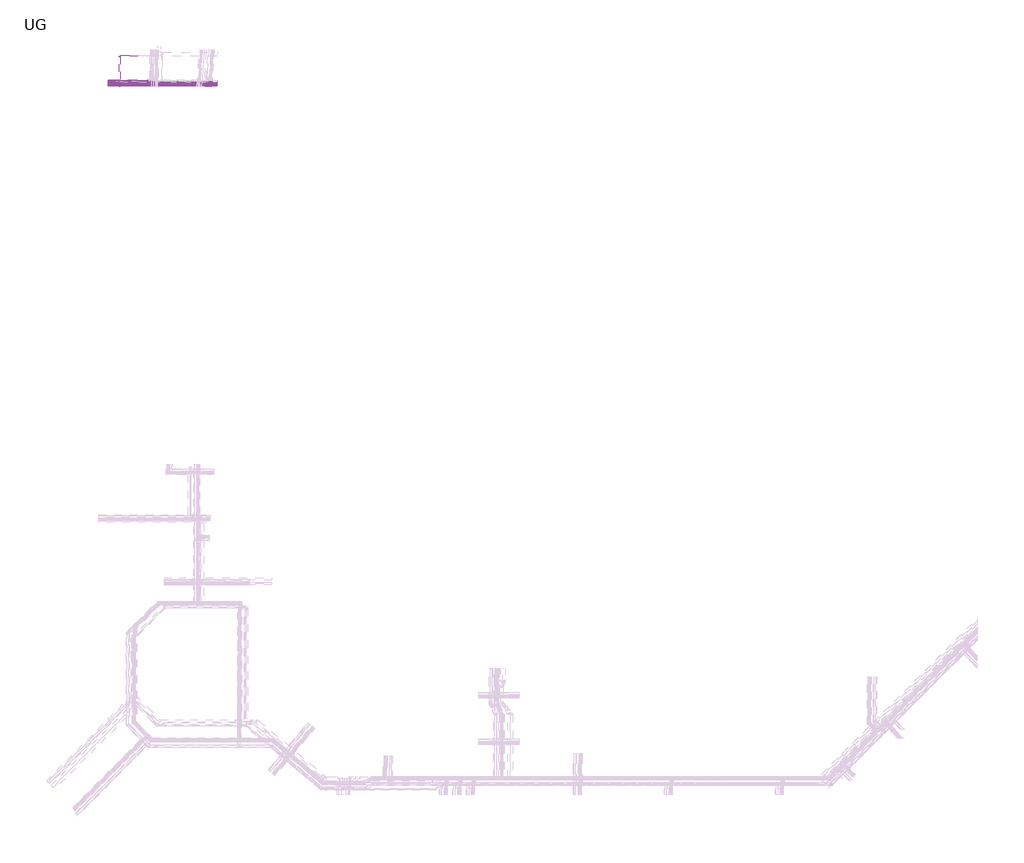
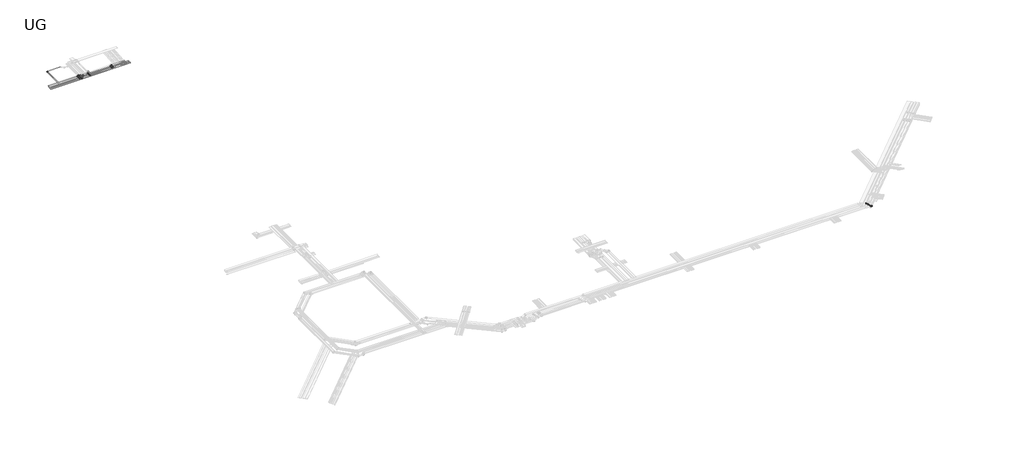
# One storey, part 12 of 14: 59 cable carrier segments, 47 cable carrier fittings.
"""IFC4 building model written with IfcOpenShell, lengths in millimetres."""

from ifc_helpers import new_model, si_unit, frame, origin, place, context, project, spatial, polyline, outline, extrude, transform, mapped, element, save
from components import cable_tray_horizontal_bend_a37de1d9, cable_tray_horizontal_bend_59db2054, cable_tray_horizontal_bend_082565e2, cable_tray_horizontal_bend_03af3673, cable_tray_horizontal_bend_b305b8b5, cable_tray_horizontal_bend_84a11516, cable_tray_reducer_c4c58872, cable_tray_reducer_97d4e856, cable_tray_reducer_20023c96, cable_tray_vertical_inside_bend_f6baaffd, cable_tray_vertical_inside_bend_2483429f, cable_tray_vertical_inside_bend_7e2063ad, cable_tray_vertical_inside_bend_1b7707b7, cable_tray_vertical_outside_bend_b526f006, cable_tray_vertical_outside_bend_0dbe7b70, cable_tray_vertical_outside_bend_43f46f6e, cable_tray_vertical_outside_bend_fceaed45, cable_tray_vertical_outside_bend_59e16c32, cable_tray_vertical_outside_bend_fb3c5a79

model = new_model("IFC4")

# Units and contexts
model_context = context("Model", 3, world=origin())
ifc_project = project(units=[si_unit("LENGTHUNIT", "METRE", prefix="MILLI")], contexts=[model_context])

# Site, building, storey
site = spatial("IfcSite", under=ifc_project)
building = spatial("IfcBuilding", under=site)
storey = spatial("IfcBuildingStorey", under=building, Name="UG", Elevation=7925.0)

# Cable carrier fittings
placement = place(None, origin())
cable_tray_horizontal_bend_shape = cable_tray_horizontal_bend_a37de1d9(model_context)
element("IfcCableCarrierFitting", 1, ObjectType="Cable Tray Horizontal Bend : ELEC_ELV_TKG_N2402", at=placement, inside=storey, context=model_context, shape_type="MappedRepresentation", body=[
    mapped(cable_tray_horizontal_bend_shape, transform((91900.0, 192741.4213562, 12700.0), x_axis=(0.0, -1.0, 0.0), y_axis=(0.0, 0.0, 1.0), z_axis=(-1.0, 0.0, 0.0))),
])
element("IfcCableCarrierFitting", 2, ObjectType="Cable Tray Horizontal Bend : ELEC_ELV_TKG_N2402", at=placement, inside=storey, context=model_context, shape_type="MappedRepresentation", body=[
    mapped(cable_tray_horizontal_bend_shape, transform((254652.9856389, 24300.0000036, 12804.9999995), x_axis=(1.0, 0.0, 0.0), y_axis=(0.0, 1.0, 0.0), z_axis=(0.0, 0.0, 1.0))),
])
element("IfcCableCarrierFitting", 3, ObjectType="Cable Tray Horizontal Bend : ELEC_ELV_TKG_N2402", at=placement, inside=storey, context=model_context, shape_type="MappedRepresentation", body=[
    mapped(cable_tray_horizontal_bend_shape, transform((254528.7215701, 24600.0000036, 12804.9999995), x_axis=(1.0, 0.0, 0.0), y_axis=(0.0, 1.0, 0.0), z_axis=(0.0, 0.0, 1.0))),
])
cable_tray_horizontal_bend_2_shape = cable_tray_horizontal_bend_59db2054(model_context)
element("IfcCableCarrierFitting", 4, ObjectType="Cable Tray Horizontal Bend : ELEC_ELV_TKG_N2402", at=placement, inside=storey, context=model_context, shape_type="MappedRepresentation", body=[
    mapped(cable_tray_horizontal_bend_2_shape, transform((255031.2982989, 22875.1903846, 12850.3002338), x_axis=(0.9999999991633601, 0.0, -4.090574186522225e-05), y_axis=(1.6732797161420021e-09, 0.9999999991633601, 4.090574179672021e-05), z_axis=(4.0905741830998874e-05, -4.0905741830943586e-05, 0.9999999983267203))),
])
cable_tray_horizontal_bend_3_shape = cable_tray_horizontal_bend_082565e2(model_context)
element("IfcCableCarrierFitting", 5, ObjectType="Cable Tray Horizontal Bend : ELEC_MAIN_CT_N2402", at=placement, inside=storey, context=model_context, shape_type="MappedRepresentation", body=[
    mapped(cable_tray_horizontal_bend_3_shape, transform((83960.768275, 198050.0, 13500.0), x_axis=(-1.0, 0.0, 0.0), y_axis=(0.0, -1.0, 0.0), z_axis=(0.0, 0.0, 1.0))),
])
cable_tray_horizontal_bend_4_shape = cable_tray_horizontal_bend_03af3673(model_context)
element("IfcCableCarrierFitting", 6, ObjectType="Cable Tray Horizontal Bend : ELEC_ELV_TKG_N2402", at=placement, inside=storey, context=model_context, shape_type="MappedRepresentation", body=[
    mapped(cable_tray_horizontal_bend_4_shape, transform((254772.2244377, 23500.0, 12799.9913655), x_axis=(0.9999999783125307, 0.0, -0.0002082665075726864), y_axis=(4.342321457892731e-08, 0.9999999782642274, 0.00020849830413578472), z_axis=(0.00020826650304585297, -0.00020849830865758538, 0.9999999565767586))),
])
cable_tray_horizontal_bend_5_shape = cable_tray_horizontal_bend_b305b8b5(model_context)
element("IfcCableCarrierFitting", 7, ObjectType="Cable Tray Horizontal Bend : ELEC_ELV_TKG_N2402", at=placement, inside=storey, context=model_context, shape_type="MappedRepresentation", body=[
    mapped(cable_tray_horizontal_bend_5_shape, transform((254896.4885064, 23200.0, 12824.9999922), x_axis=(0.999999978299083, 0.0, -0.0002083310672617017), y_axis=(4.340183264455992e-08, 0.9999999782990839, 0.00020833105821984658), z_axis=(0.00020833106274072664, -0.00020833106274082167, 0.9999999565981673))),
])
cable_tray_horizontal_bend_6_shape = cable_tray_horizontal_bend_84a11516(model_context)
element("IfcCableCarrierFitting", 8, ObjectType="Cable Tray Horizontal Bend : ELEC_ELV_CT_N2402", at=placement, inside=storey, context=model_context, shape_type="MappedRepresentation", body=[
    mapped(cable_tray_horizontal_bend_6_shape, transform((254725.474976, 24125.0000036, 12779.9946567), x_axis=(0.9999999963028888, 0.0, -8.598966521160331e-05), y_axis=(7.394222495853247e-09, 0.9999999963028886, 8.598966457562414e-05), z_axis=(8.598966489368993e-05, -8.598966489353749e-05, 0.9999999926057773))),
])
cable_tray_reducer_shape = cable_tray_reducer_c4c58872(model_context)
element("IfcCableCarrierFitting", 9, ObjectType="Cable Tray Reducer : ELEC_ELV_TKG_N2402", at=placement, inside=storey, context=model_context, shape_type="MappedRepresentation", body=[
    mapped(cable_tray_reducer_shape, transform((255075.2322817, 22919.1243674, 12850.3002338), x_axis=(0.7071067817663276, 0.7071067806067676, 0.0), y_axis=(-0.7071067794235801, 0.7071067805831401, 5.784945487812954e-05), z_axis=(4.090574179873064e-05, -4.090574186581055e-05, 0.9999999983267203))),
])
cable_tray_reducer_2_shape = cable_tray_reducer_97d4e856(model_context)
element("IfcCableCarrierFitting", 10, ObjectType="Cable Tray Reducer : ELEC_ELV_TKG_N2402", at=placement, inside=storey, context=model_context, shape_type="MappedRepresentation", body=[
    mapped(cable_tray_reducer_2_shape, transform((254682.2749607, 24329.2893254, 12804.9999995), x_axis=(0.7071067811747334, 0.7071067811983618, 0.0), y_axis=(-0.7071067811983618, 0.7071067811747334, 0.0), z_axis=(0.0, 0.0, 1.0))),
])
cable_tray_reducer_3_shape = cable_tray_reducer_20023c96(model_context)
element("IfcCableCarrierFitting", 11, ObjectType="Cable Tray Reducer : ELEC_ELV_TKG_N2402", at=placement, inside=storey, context=model_context, shape_type="MappedRepresentation", body=[
    mapped(cable_tray_reducer_3_shape, transform((254500.1681795, 24818.9339863, 12829.9490828), x_axis=(0.7071067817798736, 0.70710678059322, 4.837075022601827e-08), y_axis=(-0.7071067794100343, 0.7071067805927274, 5.789782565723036e-05), z_axis=(4.09057418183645e-05, -4.097414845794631e-05, 0.9999999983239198))),
])
cable_tray_vertical_inside_bend_shape = cable_tray_vertical_inside_bend_f6baaffd(model_context)
element("IfcCableCarrierFitting", 12, ObjectType="Cable Tray Vertical Inside Bend : ELEC_SUB_CT_N2402", at=placement, inside=storey, context=model_context, shape_type="MappedRepresentation", body=[
    mapped(cable_tray_vertical_inside_bend_shape, transform((90650.0, 192150.0, 13050.0), x_axis=(1.0, 0.0, 0.0), y_axis=(0.0, 0.0, 1.0), z_axis=(0.0, -1.0, 0.0))),
])
element("IfcCableCarrierFitting", 13, ObjectType="Cable Tray Vertical Inside Bend : ELEC_SUB_CT_N2402", at=placement, inside=storey, context=model_context, shape_type="MappedRepresentation", body=[
    mapped(cable_tray_vertical_inside_bend_shape, transform((90650.0, 191700.0, 13050.0), x_axis=(-0.7071067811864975, 0.0, -0.7071067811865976), y_axis=(-0.7071067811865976, 0.0, 0.7071067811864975), z_axis=(0.0, 1.0, 0.0))),
])
element("IfcCableCarrierFitting", 14, ObjectType="Cable Tray Vertical Inside Bend : ELEC_SUB_CT_N2402", at=placement, inside=storey, context=model_context, shape_type="MappedRepresentation", body=[
    mapped(cable_tray_vertical_inside_bend_shape, transform((94050.0000002, 191700.0, 13050.0), x_axis=(0.7071067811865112, 0.0, -0.707106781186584), y_axis=(0.707106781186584, 0.0, 0.7071067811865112), z_axis=(0.0, -1.0, 0.0))),
])
element("IfcCableCarrierFitting", 15, ObjectType="Cable Tray Vertical Inside Bend : ELEC_SUB_CT_N2402", at=placement, inside=storey, context=model_context, shape_type="MappedRepresentation", body=[
    mapped(cable_tray_vertical_inside_bend_shape, transform((101301.5421628, 191700.0, 13050.0), x_axis=(-0.707106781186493, 0.0, -0.7071067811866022), y_axis=(-0.7071067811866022, 0.0, 0.707106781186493), z_axis=(0.0, 1.0, 0.0))),
])
cable_tray_vertical_inside_bend_2_shape = cable_tray_vertical_inside_bend_2483429f(model_context)
element("IfcCableCarrierFitting", 16, ObjectType="Cable Tray Vertical Inside Bend : ELEC_SUB_CT_N2402", at=placement, inside=storey, context=model_context, shape_type="MappedRepresentation", body=[
    mapped(cable_tray_vertical_inside_bend_2_shape, transform((90650.0, 191350.0, 13050.0), x_axis=(1.0, 0.0, 0.0), y_axis=(0.0, 0.0, 1.0), z_axis=(0.0, -1.0, 0.0))),
])
element("IfcCableCarrierFitting", 17, ObjectType="Cable Tray Vertical Inside Bend : ELEC_SUB_CT_N2402", at=placement, inside=storey, context=model_context, shape_type="MappedRepresentation", body=[
    mapped(cable_tray_vertical_inside_bend_2_shape, transform((90650.0, 191100.0, 13050.0), x_axis=(-0.7071067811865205, 0.0, -0.7071067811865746), y_axis=(-0.7071067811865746, 0.0, 0.7071067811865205), z_axis=(0.0, 1.0, 0.0))),
])
element("IfcCableCarrierFitting", 18, ObjectType="Cable Tray Vertical Inside Bend : ELEC_SUB_CT_N2402", at=placement, inside=storey, context=model_context, shape_type="MappedRepresentation", body=[
    mapped(cable_tray_vertical_inside_bend_2_shape, transform((90650.0, 190850.0, 13050.0), x_axis=(-0.7071067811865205, 0.0, -0.7071067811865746), y_axis=(-0.7071067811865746, 0.0, 0.7071067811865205), z_axis=(0.0, 1.0, 0.0))),
])
element("IfcCableCarrierFitting", 19, ObjectType="Cable Tray Vertical Inside Bend : ELEC_SUB_CT_N2402", at=placement, inside=storey, context=model_context, shape_type="MappedRepresentation", body=[
    mapped(cable_tray_vertical_inside_bend_2_shape, transform((94050.0000002, 191350.0, 13050.0), x_axis=(0.7071067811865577, 0.0, -0.7071067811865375), y_axis=(0.7071067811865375, 0.0, 0.7071067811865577), z_axis=(0.0, -1.0, 0.0))),
])
element("IfcCableCarrierFitting", 20, ObjectType="Cable Tray Vertical Inside Bend : ELEC_SUB_CT_N2402", at=placement, inside=storey, context=model_context, shape_type="MappedRepresentation", body=[
    mapped(cable_tray_vertical_inside_bend_2_shape, transform((101301.5421628, 191350.0, 13050.0), x_axis=(-0.7071067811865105, 0.0, -0.7071067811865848), y_axis=(-0.7071067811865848, 0.0, 0.7071067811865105), z_axis=(0.0, 1.0, 0.0))),
])
element("IfcCableCarrierFitting", 21, ObjectType="Cable Tray Vertical Inside Bend : ELEC_SUB_CT_N2402", at=placement, inside=storey, context=model_context, shape_type="MappedRepresentation", body=[
    mapped(cable_tray_vertical_inside_bend_2_shape, transform((94050.0000002, 191100.0, 13050.0), x_axis=(0.7071067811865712, 0.0, -0.7071067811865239), y_axis=(0.7071067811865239, 0.0, 0.7071067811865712), z_axis=(0.0, -1.0, 0.0))),
])
element("IfcCableCarrierFitting", 22, ObjectType="Cable Tray Vertical Inside Bend : ELEC_SUB_CT_N2402", at=placement, inside=storey, context=model_context, shape_type="MappedRepresentation", body=[
    mapped(cable_tray_vertical_inside_bend_2_shape, transform((101301.5421628, 191100.0, 13050.0), x_axis=(-0.7071067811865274, 0.0, -0.7071067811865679), y_axis=(-0.7071067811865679, 0.0, 0.7071067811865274), z_axis=(0.0, 1.0, 0.0))),
])
element("IfcCableCarrierFitting", 23, ObjectType="Cable Tray Vertical Inside Bend : ELEC_SUB_CT_N2402", at=placement, inside=storey, context=model_context, shape_type="MappedRepresentation", body=[
    mapped(cable_tray_vertical_inside_bend_2_shape, transform((94050.0000002, 190850.0, 13050.0), x_axis=(0.7071067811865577, 0.0, -0.7071067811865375), y_axis=(0.7071067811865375, 0.0, 0.7071067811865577), z_axis=(0.0, -1.0, 0.0))),
])
element("IfcCableCarrierFitting", 24, ObjectType="Cable Tray Vertical Inside Bend : ELEC_SUB_CT_N2402", at=placement, inside=storey, context=model_context, shape_type="MappedRepresentation", body=[
    mapped(cable_tray_vertical_inside_bend_2_shape, transform((101301.5421628, 190850.0, 13050.0), x_axis=(-0.7071067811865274, 0.0, -0.7071067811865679), y_axis=(-0.7071067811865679, 0.0, 0.7071067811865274), z_axis=(0.0, 1.0, 0.0))),
])
cable_tray_vertical_inside_bend_3_shape = cable_tray_vertical_inside_bend_7e2063ad(model_context)
element("IfcCableCarrierFitting", 25, ObjectType="Cable Tray Vertical Inside Bend : ELEC_ELV_TKG_N2402", at=placement, inside=storey, context=model_context, shape_type="MappedRepresentation", body=[
    mapped(cable_tray_vertical_inside_bend_3_shape, transform((254456.2341966, 24775.0000036, 12829.9490798), x_axis=(0.9999999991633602, 0.0, -4.0905741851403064e-05), y_axis=(1.676077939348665e-09, 0.9999999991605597, 4.0974148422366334e-05), z_axis=(4.090574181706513e-05, -4.097414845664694e-05, 0.9999999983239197))),
])
element("IfcCableCarrierFitting", 26, ObjectType="Cable Tray Vertical Inside Bend : ELEC_ELV_TKG_N2402", at=placement, inside=storey, context=model_context, shape_type="MappedRepresentation", body=[
    mapped(cable_tray_vertical_inside_bend_3_shape, transform((254373.3914908, 24975.0000036, 12829.997401), x_axis=(0.9999999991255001, 0.0, -4.182104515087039e-05), y_axis=(1.7519292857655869e-09, 0.9999999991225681, 4.1891092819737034e-05), z_axis=(4.182104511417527e-05, -4.189109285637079e-05, 0.9999999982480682))),
])
cable_tray_vertical_inside_bend_4_shape = cable_tray_vertical_inside_bend_1b7707b7(model_context)
element("IfcCableCarrierFitting", 27, ObjectType="Cable Tray Vertical Inside Bend : ELEC_ELV_TKG_N2402", at=placement, inside=storey, context=model_context, shape_type="MappedRepresentation", body=[
    mapped(cable_tray_vertical_inside_bend_4_shape, transform((254590.8536323, 24450.0000036, 12804.9964127), x_axis=(0.9999999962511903, 0.0, -8.658879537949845e-05), y_axis=(7.50166772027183e-09, 0.999999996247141, 8.663554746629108e-05), z_axis=(8.65887950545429e-05, -8.663554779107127e-05, 0.9999999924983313))),
])
cable_tray_vertical_outside_bend_shape = cable_tray_vertical_outside_bend_b526f006(model_context)
element("IfcCableCarrierFitting", 28, ObjectType="Cable Tray Vertical Outside Bend : ELEC_ELV_TKG_N2402", at=placement, inside=storey, context=model_context, shape_type="MappedRepresentation", body=[
    mapped(cable_tray_vertical_outside_bend_shape, transform((91725.0, 191325.0, 13025.0), x_axis=(0.0, -1.0, 0.0), y_axis=(0.0, 0.0, -1.0), z_axis=(1.0, 0.0, 0.0))),
])
element("IfcCableCarrierFitting", 29, ObjectType="Cable Tray Vertical Outside Bend : ELEC_ELV_TKG_N2402", at=placement, inside=storey, context=model_context, shape_type="MappedRepresentation", body=[
    mapped(cable_tray_vertical_outside_bend_shape, transform((91225.0, 190825.0, 13025.0), x_axis=(0.0, -1.0, 0.0), y_axis=(0.0, 0.0, -1.0), z_axis=(1.0, 0.0, 0.0))),
])
cable_tray_vertical_outside_bend_2_shape = cable_tray_vertical_outside_bend_0dbe7b70(model_context)
element("IfcCableCarrierFitting", 30, ObjectType="Cable Tray Vertical Outside Bend : ELEC_ELV_TKG_N2402", at=placement, inside=storey, context=model_context, shape_type="MappedRepresentation", body=[
    mapped(cable_tray_vertical_outside_bend_2_shape, transform((91900.0, 191499.3407089, 13000.0), x_axis=(0.0, -1.0, 0.0), y_axis=(0.0, 0.0, -1.0), z_axis=(1.0, 0.0, 0.0))),
])
element("IfcCableCarrierFitting", 31, ObjectType="Cable Tray Vertical Outside Bend : ELEC_ELV_TKG_N2402", at=placement, inside=storey, context=model_context, shape_type="MappedRepresentation", body=[
    mapped(cable_tray_vertical_outside_bend_2_shape, transform((91550.0, 191150.0, 13000.0), x_axis=(0.0, -1.0, 0.0), y_axis=(0.0, 0.0, -1.0), z_axis=(1.0, 0.0, 0.0))),
])
element("IfcCableCarrierFitting", 32, ObjectType="Cable Tray Vertical Outside Bend : ELEC_ELV_TKG_N2402", at=placement, inside=storey, context=model_context, shape_type="MappedRepresentation", body=[
    mapped(cable_tray_vertical_outside_bend_2_shape, transform((91400.0, 191000.0, 13000.0), x_axis=(0.0, -1.0, 0.0), y_axis=(0.0, 0.0, -1.0), z_axis=(1.0, 0.0, 0.0))),
])
cable_tray_vertical_outside_bend_3_shape = cable_tray_vertical_outside_bend_43f46f6e(model_context)
element("IfcCableCarrierFitting", 33, ObjectType="Cable Tray Vertical Outside Bend : ELEC_ELV_TKG_N2402", at=placement, inside=storey, context=model_context, shape_type="MappedRepresentation", body=[
    mapped(cable_tray_vertical_outside_bend_3_shape, transform((92200.0, 191800.0, 13025.0), x_axis=(0.0, -1.0, 0.0), y_axis=(0.0, 0.0, -1.0), z_axis=(1.0, 0.0, 0.0))),
])
cable_tray_vertical_outside_bend_4_shape = cable_tray_vertical_outside_bend_fceaed45(model_context)
element("IfcCableCarrierFitting", 34, ObjectType="Cable Tray Vertical Outside Bend : ELEC_ELV_TKG_N2402", at=placement, inside=storey, context=model_context, shape_type="MappedRepresentation", body=[
    mapped(cable_tray_vertical_outside_bend_4_shape, transform((91900.0, 192441.4213562, 13000.0), x_axis=(0.0, -0.7071067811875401, 0.7071067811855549), y_axis=(0.0, -0.7071067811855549, -0.7071067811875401), z_axis=(1.0, 0.0, 0.0))),
])
cable_tray_vertical_outside_bend_5_shape = cable_tray_vertical_outside_bend_59e16c32(model_context)
element("IfcCableCarrierFitting", 35, ObjectType="Cable Tray Vertical Outside Bend : ELEC_SUB_CT_N2402", at=placement, inside=storey, context=model_context, shape_type="MappedRepresentation", body=[
    mapped(cable_tray_vertical_outside_bend_5_shape, transform((90950.0, 192150.0, 13350.0), x_axis=(0.7071067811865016, 0.0, 0.7071067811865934), y_axis=(0.7071067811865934, 0.0, -0.7071067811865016), z_axis=(0.0, 1.0, 0.0))),
])
element("IfcCableCarrierFitting", 36, ObjectType="Cable Tray Vertical Outside Bend : ELEC_SUB_CT_N2402", at=placement, inside=storey, context=model_context, shape_type="MappedRepresentation", body=[
    mapped(cable_tray_vertical_outside_bend_5_shape, transform((90950.0, 191700.0, 13350.0), x_axis=(0.7071067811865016, 0.0, 0.7071067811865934), y_axis=(0.7071067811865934, 0.0, -0.7071067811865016), z_axis=(0.0, 1.0, 0.0))),
])
element("IfcCableCarrierFitting", 37, ObjectType="Cable Tray Vertical Outside Bend : ELEC_SUB_CT_N2402", at=placement, inside=storey, context=model_context, shape_type="MappedRepresentation", body=[
    mapped(cable_tray_vertical_outside_bend_5_shape, transform((93750.0000002, 191700.0, 13350.0), x_axis=(1.0, 0.0, 0.0), y_axis=(0.0, 0.0, -1.0), z_axis=(0.0, 1.0, 0.0))),
])
element("IfcCableCarrierFitting", 38, ObjectType="Cable Tray Vertical Outside Bend : ELEC_SUB_CT_N2402", at=placement, inside=storey, context=model_context, shape_type="MappedRepresentation", body=[
    mapped(cable_tray_vertical_outside_bend_5_shape, transform((101601.5421628, 191700.0, 13350.0), x_axis=(0.7071067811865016, 0.0, 0.7071067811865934), y_axis=(0.7071067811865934, 0.0, -0.7071067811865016), z_axis=(0.0, 1.0, 0.0))),
])
cable_tray_vertical_outside_bend_6_shape = cable_tray_vertical_outside_bend_fb3c5a79(model_context)
element("IfcCableCarrierFitting", 39, ObjectType="Cable Tray Vertical Outside Bend : ELEC_SUB_CT_N2402", at=placement, inside=storey, context=model_context, shape_type="MappedRepresentation", body=[
    mapped(cable_tray_vertical_outside_bend_6_shape, transform((90950.0, 191350.0, 13350.0), x_axis=(0.7071067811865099, 0.0, 0.7071067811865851), y_axis=(0.7071067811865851, 0.0, -0.7071067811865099), z_axis=(0.0, 1.0, 0.0))),
])
element("IfcCableCarrierFitting", 40, ObjectType="Cable Tray Vertical Outside Bend : ELEC_SUB_CT_N2402", at=placement, inside=storey, context=model_context, shape_type="MappedRepresentation", body=[
    mapped(cable_tray_vertical_outside_bend_6_shape, transform((93750.0000002, 191350.0, 13350.0), x_axis=(1.0, 0.0, 0.0), y_axis=(0.0, 0.0, -1.0), z_axis=(0.0, 1.0, 0.0))),
])
element("IfcCableCarrierFitting", 41, ObjectType="Cable Tray Vertical Outside Bend : ELEC_SUB_CT_N2402", at=placement, inside=storey, context=model_context, shape_type="MappedRepresentation", body=[
    mapped(cable_tray_vertical_outside_bend_6_shape, transform((90950.0, 191100.0, 13350.0), x_axis=(0.7071067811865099, 0.0, 0.7071067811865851), y_axis=(0.7071067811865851, 0.0, -0.7071067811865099), z_axis=(0.0, 1.0, 0.0))),
])
element("IfcCableCarrierFitting", 42, ObjectType="Cable Tray Vertical Outside Bend : ELEC_SUB_CT_N2402", at=placement, inside=storey, context=model_context, shape_type="MappedRepresentation", body=[
    mapped(cable_tray_vertical_outside_bend_6_shape, transform((93750.0000002, 191100.0, 13350.0), x_axis=(1.0, 0.0, 0.0), y_axis=(0.0, 0.0, -1.0), z_axis=(0.0, 1.0, 0.0))),
])
element("IfcCableCarrierFitting", 43, ObjectType="Cable Tray Vertical Outside Bend : ELEC_SUB_CT_N2402", at=placement, inside=storey, context=model_context, shape_type="MappedRepresentation", body=[
    mapped(cable_tray_vertical_outside_bend_6_shape, transform((90950.0, 190850.0, 13350.0), x_axis=(0.7071067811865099, 0.0, 0.7071067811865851), y_axis=(0.7071067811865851, 0.0, -0.7071067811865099), z_axis=(0.0, 1.0, 0.0))),
])
element("IfcCableCarrierFitting", 44, ObjectType="Cable Tray Vertical Outside Bend : ELEC_SUB_CT_N2402", at=placement, inside=storey, context=model_context, shape_type="MappedRepresentation", body=[
    mapped(cable_tray_vertical_outside_bend_6_shape, transform((93750.0000002, 190850.0, 13350.0), x_axis=(1.0, 0.0, 0.0), y_axis=(0.0, 0.0, -1.0), z_axis=(0.0, 1.0, 0.0))),
])
element("IfcCableCarrierFitting", 45, ObjectType="Cable Tray Vertical Outside Bend : ELEC_SUB_CT_N2402", at=placement, inside=storey, context=model_context, shape_type="MappedRepresentation", body=[
    mapped(cable_tray_vertical_outside_bend_6_shape, transform((101601.5421628, 191350.0, 13350.0), x_axis=(0.7071067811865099, 0.0, 0.7071067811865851), y_axis=(0.7071067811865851, 0.0, -0.7071067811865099), z_axis=(0.0, 1.0, 0.0))),
])
element("IfcCableCarrierFitting", 46, ObjectType="Cable Tray Vertical Outside Bend : ELEC_SUB_CT_N2402", at=placement, inside=storey, context=model_context, shape_type="MappedRepresentation", body=[
    mapped(cable_tray_vertical_outside_bend_6_shape, transform((101601.5421628, 191100.0, 13350.0), x_axis=(0.7071067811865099, 0.0, 0.7071067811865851), y_axis=(0.7071067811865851, 0.0, -0.7071067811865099), z_axis=(0.0, 1.0, 0.0))),
])
element("IfcCableCarrierFitting", 47, ObjectType="Cable Tray Vertical Outside Bend : ELEC_SUB_CT_N2402", at=placement, inside=storey, context=model_context, shape_type="MappedRepresentation", body=[
    mapped(cable_tray_vertical_outside_bend_6_shape, transform((101601.5421628, 190850.0, 13350.0), x_axis=(0.7071067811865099, 0.0, 0.7071067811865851), y_axis=(0.7071067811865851, 0.0, -0.7071067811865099), z_axis=(0.0, 1.0, 0.0))),
])

# Cable carrier segments
element("IfcCableCarrierSegment", 48, ObjectType="ELEC_ELV_TKG_N2402", at=placement, inside=storey, context=model_context, shape_type="SweptSolid", body=[
    extrude(outline(polyline([(81140.0010949, 191600.0), (81140.0010949, 192000.0), (107313.684735, 192000.0), (107313.684735, 191600.0), (81140.0010949, 191600.0)])), frame((0.0, 0.0, 12650.0), z_axis=(0.0, 0.0, 1.0), x_axis=(1.0, 0.0, 0.0)), (0.0, 0.0, 1.0), 150.0),
])
element("IfcCableCarrierSegment", 49, ObjectType="ELEC_ELV_TKG_N2402", at=placement, inside=storey, context=model_context, shape_type="SweptSolid", body=[
    extrude(outline(polyline([(81140.0010949, 191449.3407089), (81140.0010949, 191549.3407089), (107313.684735, 191549.3407089), (107313.684735, 191449.3407089), (81140.0010949, 191449.3407089)])), frame((0.0, 0.0, 12650.0), z_axis=(0.0, 0.0, 1.0), x_axis=(1.0, 0.0, 0.0)), (0.0, 0.0, 1.0), 100.0),
])
element("IfcCableCarrierSegment", 50, ObjectType="ELEC_ELV_TKG_N2402", at=placement, inside=storey, context=model_context, shape_type="SweptSolid", body=[
    extrude(outline(polyline([(81140.0010949, 191250.0), (81140.0010949, 191400.0), (107313.684735, 191400.0), (107313.684735, 191250.0), (81140.0010949, 191250.0)])), frame((0.0, 0.0, 12650.0), z_axis=(0.0, 0.0, 1.0), x_axis=(1.0, 0.0, 0.0)), (0.0, 0.0, 1.0), 150.0),
])
element("IfcCableCarrierSegment", 51, ObjectType="ELEC_ELV_TKG_N2402", at=placement, inside=storey, context=model_context, shape_type="SweptSolid", body=[
    extrude(outline(polyline([(81140.0010949, 191100.0), (81140.0010949, 191200.0), (107313.684735, 191200.0), (107313.684735, 191100.0), (81140.0010949, 191100.0)])), frame((0.0, 0.0, 12650.0), z_axis=(0.0, 0.0, 1.0), x_axis=(1.0, 0.0, 0.0)), (0.0, 0.0, 1.0), 100.0),
])
element("IfcCableCarrierSegment", 52, ObjectType="ELEC_ELV_TKG_N2402", at=placement, inside=storey, context=model_context, shape_type="SweptSolid", body=[
    extrude(outline(polyline([(81140.0010949, 190950.0), (81140.0010949, 191050.0), (107313.684735, 191050.0), (107313.684735, 190950.0), (81140.0010949, 190950.0)])), frame((0.0, 0.0, 12650.0), z_axis=(0.0, 0.0, 1.0), x_axis=(1.0, 0.0, 0.0)), (0.0, 0.0, 1.0), 100.0),
])
element("IfcCableCarrierSegment", 53, ObjectType="ELEC_ELV_TKG_N2402", at=placement, inside=storey, context=model_context, shape_type="SweptSolid", body=[
    extrude(outline(polyline([(81140.0010949, 190750.0), (81140.0010949, 190900.0), (107313.684735, 190900.0), (107313.684735, 190750.0), (81140.0010949, 190750.0)])), frame((0.0, 0.0, 12650.0), z_axis=(0.0, 0.0, 1.0), x_axis=(1.0, 0.0, 0.0)), (0.0, 0.0, 1.0), 150.0),
])
element("IfcCableCarrierSegment", 54, ObjectType="ELEC_ELV_TKG_N2402", at=placement, inside=storey, context=model_context, shape_type="SweptSolid", body=[
    extrude(outline(polyline([(92400.0, 192200.0), (92400.0, 192050.0), (81140.0010949, 192050.0), (81140.0010949, 192200.0), (92400.0, 192200.0)])), frame((0.0, 0.0, 12650.0), z_axis=(0.0, 0.0, 1.0), x_axis=(1.0, 0.0, 0.0)), (0.0, 0.0, 1.0), 150.0),
])
element("IfcCableCarrierSegment", 55, ObjectType="ELEC_ELV_TKG_N2402", at=placement, inside=storey, context=model_context, shape_type="SweptSolid", body=[
    extrude(outline(polyline([(0.0, -100.0), (0.0, 0.0), (341.4213563, 0.0), (341.4213563, -100.0), (0.0, -100.0)])), frame((91950.0, 192676.7766953, 12693.9339828), z_axis=(0.0, 0.7071067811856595, 0.7071067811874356), x_axis=(0.0, -0.7071067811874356, 0.7071067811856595)), (0.0, 0.0, 1.0), 100.0),
])
element("IfcCableCarrierSegment", 56, ObjectType="ELEC_ELV_TKG_N2402", at=placement, inside=storey, context=model_context, shape_type="SweptSolid", body=[
    extrude(outline(polyline([(91850.0, 192400.0), (91950.0, 192400.0), (91950.0, 191599.3407089), (91850.0, 191599.3407089), (91850.0, 192400.0)])), frame((0.0, 0.0, 12950.0), z_axis=(0.0, 0.0, 1.0), x_axis=(1.0, 0.0, 0.0)), (0.0, 0.0, 1.0), 100.0),
])
element("IfcCableCarrierSegment", 57, ObjectType="ELEC_ELV_TKG_N2402", at=placement, inside=storey, context=model_context, shape_type="SweptSolid", body=[
    extrude(outline(polyline([(91850.0, 191549.3407089), (91950.0, 191549.3407089), (91950.0, 191449.3407089), (91850.0, 191449.3407089), (91850.0, 191549.3407089)])), frame((0.0, 0.0, 12800.0), z_axis=(0.0, 0.0, 1.0), x_axis=(1.0, 0.0, 0.0)), (0.0, 0.0, 1.0), 100.0),
])
element("IfcCableCarrierSegment", 58, ObjectType="ELEC_ELV_TKG_N2402", at=placement, inside=storey, context=model_context, shape_type="SweptSolid", body=[
    extrude(outline(polyline([(0.0, -150.0), (0.0, 0.0), (300.0000001, 0.0), (300.0000001, -150.0), (0.0, -150.0)])), frame((91800.0, 192603.0330086, 12715.9009742), z_axis=(0.0, 0.7071067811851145, 0.7071067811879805), x_axis=(0.0, -0.7071067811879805, 0.7071067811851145)), (0.0, 0.0, 1.0), 150.0),
])
element("IfcCableCarrierSegment", 59, ObjectType="ELEC_ELV_TKG_N2402", at=placement, inside=storey, context=model_context, shape_type="SweptSolid", body=[
    extrude(outline(polyline([(91650.0, 192337.8679656), (91800.0, 192337.8679656), (91800.0, 191475.0), (91650.0, 191475.0), (91650.0, 192337.8679656)])), frame((0.0, 0.0, 12950.0), z_axis=(0.0, 0.0, 1.0), x_axis=(1.0, 0.0, 0.0)), (0.0, 0.0, 1.0), 150.0),
])
element("IfcCableCarrierSegment", 60, ObjectType="ELEC_ELV_TKG_N2402", at=placement, inside=storey, context=model_context, shape_type="SweptSolid", body=[
    extrude(outline(polyline([(91650.0, 191400.0), (91800.0, 191400.0), (91800.0, 191250.0), (91650.0, 191250.0), (91650.0, 191400.0)])), frame((0.0, 0.0, 12825.0), z_axis=(0.0, 0.0, 1.0), x_axis=(1.0, 0.0, 0.0)), (0.0, 0.0, 1.0), 50.0),
])
element("IfcCableCarrierSegment", 61, ObjectType="ELEC_ELV_TKG_N2402", at=placement, inside=storey, context=model_context, shape_type="SweptSolid", body=[
    extrude(outline(polyline([(91500.0, 192400.0), (91600.0, 192400.0), (91600.0, 191250.0), (91500.0, 191250.0), (91500.0, 192400.0)])), frame((0.0, 0.0, 12950.0), z_axis=(0.0, 0.0, 1.0), x_axis=(1.0, 0.0, 0.0)), (0.0, 0.0, 1.0), 100.0),
])
element("IfcCableCarrierSegment", 62, ObjectType="ELEC_ELV_TKG_N2402", at=placement, inside=storey, context=model_context, shape_type="SweptSolid", body=[
    extrude(outline(polyline([(91500.0, 191200.0), (91600.0, 191200.0), (91600.0, 191100.0), (91500.0, 191100.0), (91500.0, 191200.0)])), frame((0.0, 0.0, 12800.0), z_axis=(0.0, 0.0, 1.0), x_axis=(1.0, 0.0, 0.0)), (0.0, 0.0, 1.0), 100.0),
])
element("IfcCableCarrierSegment", 63, ObjectType="ELEC_ELV_TKG_N2402", at=placement, inside=storey, context=model_context, shape_type="SweptSolid", body=[
    extrude(outline(polyline([(91350.0, 192400.0), (91450.0, 192400.0), (91450.0, 191100.0), (91350.0, 191100.0), (91350.0, 192400.0)])), frame((0.0, 0.0, 12950.0), z_axis=(0.0, 0.0, 1.0), x_axis=(1.0, 0.0, 0.0)), (0.0, 0.0, 1.0), 100.0),
])
element("IfcCableCarrierSegment", 64, ObjectType="ELEC_ELV_TKG_N2402", at=placement, inside=storey, context=model_context, shape_type="SweptSolid", body=[
    extrude(outline(polyline([(91350.0, 191050.0), (91450.0, 191050.0), (91450.0, 190950.0), (91350.0, 190950.0), (91350.0, 191050.0)])), frame((0.0, 0.0, 12800.0), z_axis=(0.0, 0.0, 1.0), x_axis=(1.0, 0.0, 0.0)), (0.0, 0.0, 1.0), 100.0),
])
element("IfcCableCarrierSegment", 65, ObjectType="ELEC_ELV_TKG_N2402", at=placement, inside=storey, context=model_context, shape_type="SweptSolid", body=[
    extrude(outline(polyline([(91150.0, 192337.8679656), (91300.0, 192337.8679656), (91300.0, 190975.0), (91150.0, 190975.0), (91150.0, 192337.8679656)])), frame((0.0, 0.0, 12950.0), z_axis=(0.0, 0.0, 1.0), x_axis=(1.0, 0.0, 0.0)), (0.0, 0.0, 1.0), 150.0),
])
element("IfcCableCarrierSegment", 66, ObjectType="ELEC_ELV_TKG_N2402", at=placement, inside=storey, context=model_context, shape_type="SweptSolid", body=[
    extrude(outline(polyline([(91300.0, 190900.0), (91300.0, 190750.0), (91150.0, 190750.0), (91150.0, 190900.0), (91300.0, 190900.0)])), frame((0.0, 0.0, 12825.0), z_axis=(0.0, 0.0, 1.0), x_axis=(1.0, 0.0, 0.0)), (0.0, 0.0, 1.0), 50.0),
])
element("IfcCableCarrierSegment", 67, ObjectType="ELEC_ELV_TKG_N2402", at=placement, inside=storey, context=model_context, shape_type="SweptSolid", body=[
    extrude(outline(polyline([(1e-07, -150.0), (0.0, 0.0), (1724.1253025, 0.0), (1724.1253025, -150.0), (1e-07, -150.0)])), frame((104879.7522707, 192333.5183656, 12950.0), z_axis=(0.0, -1.5425355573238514e-12, 1.0), x_axis=(-0.06975647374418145, -0.9975640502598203, -1.5463022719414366e-12)), (0.0, 0.0, 1.0), 150.0),
])
element("IfcCableCarrierSegment", 68, ObjectType="ELEC_ELV_TKG_N2402", at=placement, inside=storey, context=model_context, shape_type="SweptSolid", body=[
    extrude(outline(polyline([(104927.5402855, 192301.050826), (105326.5659056, 192273.1482365), (105209.9087639, 190604.8733865), (104810.8831438, 190632.775976), (104927.5402855, 192301.050826)])), frame((0.0, 0.0, 12950.0), z_axis=(0.0, 0.0, 1.0), x_axis=(1.0, 0.0, 0.0)), (0.0, 0.0, 1.0), 150.0),
])
element("IfcCableCarrierSegment", 69, ObjectType="ELEC_ELV_TKG_N2402", at=placement, inside=storey, context=model_context, shape_type="SweptSolid", body=[
    extrude(outline(polyline([(105382.9050997, 192362.8981527), (105482.6615047, 192355.9225053), (105360.9478994, 190615.3368575), (105261.1914944, 190622.3125049), (105382.9050997, 192362.8981527)])), frame((0.0, 0.0, 12950.0), z_axis=(0.0, 0.0, 1.0), x_axis=(1.0, 0.0, 0.0)), (0.0, 0.0, 1.0), 100.0),
])
element("IfcCableCarrierSegment", 70, ObjectType="ELEC_ELV_TKG_N2402", at=placement, inside=storey, context=model_context, shape_type="SweptSolid", body=[
    extrude(outline(polyline([(105531.9143113, 192343.9818366), (105681.5489189, 192333.5183656), (105561.2800175, 190613.5929457), (105411.6454099, 190624.0564167), (105531.9143113, 192343.9818366)])), frame((0.0, 0.0, 12950.0), z_axis=(0.0, 0.0, 1.0), x_axis=(1.0, 0.0, 0.0)), (0.0, 0.0, 1.0), 150.0),
])
element("IfcCableCarrierSegment", 71, ObjectType="ELEC_ELV_TKG_N2402", at=placement, inside=storey, context=model_context, shape_type="SweptSolid", body=[
    extrude(outline(polyline([(105733.6911333, 192362.8981527), (105833.4475383, 192355.9225053), (105711.733933, 190615.3368575), (105611.977528, 190622.3125049), (105733.6911333, 192362.8981527)])), frame((0.0, 0.0, 12950.0), z_axis=(0.0, 0.0, 1.0), x_axis=(1.0, 0.0, 0.0)), (0.0, 0.0, 1.0), 100.0),
])
element("IfcCableCarrierSegment", 72, ObjectType="ELEC_ELV_TKG_N2402", at=placement, inside=storey, context=model_context, shape_type="SweptSolid", body=[
    extrude(outline(polyline([(105884.0280048, 192362.8981527), (105983.7844098, 192355.9225053), (105862.0708045, 190615.3368575), (105762.3143995, 190622.3125049), (105884.0280048, 192362.8981527)])), frame((0.0, 0.0, 12950.0), z_axis=(0.0, 0.0, 1.0), x_axis=(1.0, 0.0, 0.0)), (0.0, 0.0, 1.0), 100.0),
])
element("IfcCableCarrierSegment", 73, ObjectType="ELEC_ELV_TKG_N2402", at=placement, inside=storey, context=model_context, shape_type="SweptSolid", body=[
    extrude(outline(polyline([(106033.0372164, 192343.9818366), (106182.671824, 192333.5183656), (106062.4029226, 190613.5929457), (105912.7683151, 190624.0564167), (106033.0372164, 192343.9818366)])), frame((0.0, 0.0, 12950.0), z_axis=(0.0, 0.0, 1.0), x_axis=(1.0, 0.0, 0.0)), (0.0, 0.0, 1.0), 150.0),
])
element("IfcCableCarrierSegment", 74, ObjectType="ELEC_SUB_CT_N2402", at=placement, inside=storey, context=model_context, shape_type="SweptSolid", body=[
    extrude(outline(polyline([(81140.0010949, 191950.0), (81140.0010949, 192350.0), (90556.8019484, 192350.0), (90556.8019484, 191950.0), (81140.0010949, 191950.0)])), frame((0.0, 0.0, 13025.0), z_axis=(0.0, 0.0, 1.0), x_axis=(1.0, 0.0, 0.0)), (0.0, 0.0, 1.0), 50.0),
])
element("IfcCableCarrierSegment", 75, ObjectType="ELEC_SUB_CT_N2402", at=placement, inside=storey, context=model_context, shape_type="SweptSolid", body=[
    extrude(outline(polyline([(90556.8019484, 191900.0), (90556.8019484, 191500.0), (81140.0010949, 191500.0), (81140.0010949, 191900.0), (90556.8019484, 191900.0)])), frame((0.0, 0.0, 13025.0), z_axis=(0.0, 0.0, 1.0), x_axis=(1.0, 0.0, 0.0)), (0.0, 0.0, 1.0), 50.0),
])
element("IfcCableCarrierSegment", 76, ObjectType="ELEC_SUB_CT_N2402", at=placement, inside=storey, context=model_context, shape_type="SweptSolid", body=[
    extrude(outline(polyline([(81140.0010949, 191250.0), (81140.0010949, 191450.0), (90598.2233047, 191450.0), (90598.2233047, 191250.0), (81140.0010949, 191250.0)])), frame((0.0, 0.0, 13025.0), z_axis=(0.0, 0.0, 1.0), x_axis=(1.0, 0.0, 0.0)), (0.0, 0.0, 1.0), 50.0),
])
element("IfcCableCarrierSegment", 77, ObjectType="ELEC_SUB_CT_N2402", at=placement, inside=storey, context=model_context, shape_type="SweptSolid", body=[
    extrude(outline(polyline([(90598.2233047, 191200.0), (90598.2233047, 191000.0), (81140.0010949, 191000.0), (81140.0010949, 191200.0), (90598.2233047, 191200.0)])), frame((0.0, 0.0, 13025.0), z_axis=(0.0, 0.0, 1.0), x_axis=(1.0, 0.0, 0.0)), (0.0, 0.0, 1.0), 50.0),
])
element("IfcCableCarrierSegment", 78, ObjectType="ELEC_SUB_CT_N2402", at=placement, inside=storey, context=model_context, shape_type="SweptSolid", body=[
    extrude(outline(polyline([(90598.2233047, 190950.0), (90598.2233047, 190750.0), (81140.0010949, 190750.0), (81140.0010949, 190950.0), (90598.2233047, 190950.0)])), frame((0.0, 0.0, 13025.0), z_axis=(0.0, 0.0, 1.0), x_axis=(1.0, 0.0, 0.0)), (0.0, 0.0, 1.0), 50.0),
])
element("IfcCableCarrierSegment", 79, ObjectType="ELEC_SUB_CT_N2402", at=placement, inside=storey, context=model_context, shape_type="SweptSolid", body=[
    extrude(outline(polyline([(25.0, 1.5564437), (-25.0, 1.5564437), (-25.0, 401.5564437), (25.0, 401.5564437), (25.0, 1.5564437)])), frame((90715.9009742, 191948.4435563, 13115.9009742), z_axis=(0.7071067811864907, 0.0, 0.7071067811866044), x_axis=(0.7071067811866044, 0.0, -0.7071067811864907)), (0.0, 0.0, 1.0), 237.8679656),
])
element("IfcCableCarrierSegment", 80, ObjectType="ELEC_SUB_CT_N2402", at=placement, inside=storey, context=model_context, shape_type="SweptSolid", body=[
    extrude(outline(polyline([(25.0, 1.5564437), (-25.0, 1.5564437), (-25.0, 401.5564437), (25.0, 401.5564437), (25.0, 1.5564437)])), frame((90715.9009742, 191498.4435563, 13115.9009742), z_axis=(0.7071067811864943, 0.0, 0.7071067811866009), x_axis=(0.7071067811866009, 0.0, -0.7071067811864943)), (0.0, 0.0, 1.0), 237.8679656),
])
element("IfcCableCarrierSegment", 81, ObjectType="ELEC_SUB_CT_N2402", at=placement, inside=storey, context=model_context, shape_type="SweptSolid", body=[
    extrude(outline(polyline([(91043.1980515, 191500.0), (91043.1980515, 191900.0), (93656.8019486, 191900.0), (93656.8019486, 191500.0), (91043.1980515, 191500.0)])), frame((0.0, 0.0, 13325.0), z_axis=(0.0, 0.0, 1.0), x_axis=(1.0, 0.0, 0.0)), (0.0, 0.0, 1.0), 50.0),
])
element("IfcCableCarrierSegment", 82, ObjectType="ELEC_SUB_CT_N2402", at=placement, inside=storey, context=model_context, shape_type="SweptSolid", body=[
    extrude(outline(polyline([(0.0, -400.0), (0.0, 0.0), (237.8679656, 0.0), (237.8679656, -400.0), (0.0, -400.0)])), frame((93798.2233049, 191900.0, 13266.4213562), z_axis=(0.7071067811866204, 0.0, 0.7071067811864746), x_axis=(0.7071067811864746, 0.0, -0.7071067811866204)), (0.0, 0.0, 1.0), 50.0),
])
element("IfcCableCarrierSegment", 83, ObjectType="ELEC_SUB_CT_N2402", at=placement, inside=storey, context=model_context, shape_type="SweptSolid", body=[
    extrude(outline(polyline([(94143.1980517, 191500.0), (94143.1980517, 191900.0), (101208.3441113, 191900.0), (101208.3441113, 191500.0), (94143.1980517, 191500.0)])), frame((0.0, 0.0, 13025.0), z_axis=(0.0, 0.0, 1.0), x_axis=(1.0, 0.0, 0.0)), (0.0, 0.0, 1.0), 50.0),
])
element("IfcCableCarrierSegment", 84, ObjectType="ELEC_SUB_CT_N2402", at=placement, inside=storey, context=model_context, shape_type="SweptSolid", body=[
    extrude(outline(polyline([(25.0, 3.0776407), (-25.0, 3.0776407), (-25.0, 203.0776407), (25.0, 203.0776407), (25.0, 3.0776407)])), frame((90686.6116523, 191246.9223593, 13086.6116523), z_axis=(0.7071067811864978, 0.0, 0.7071067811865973), x_axis=(0.7071067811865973, 0.0, -0.7071067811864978)), (0.0, 0.0, 1.0), 320.7106781),
])
element("IfcCableCarrierSegment", 85, ObjectType="ELEC_SUB_CT_N2402", at=placement, inside=storey, context=model_context, shape_type="SweptSolid", body=[
    extrude(outline(polyline([(91001.7766953, 191250.0), (91001.7766953, 191450.0), (93698.2233049, 191450.0), (93698.2233049, 191250.0), (91001.7766953, 191250.0)])), frame((0.0, 0.0, 13325.0), z_axis=(0.0, 0.0, 1.0), x_axis=(1.0, 0.0, 0.0)), (0.0, 0.0, 1.0), 50.0),
])
element("IfcCableCarrierSegment", 86, ObjectType="ELEC_SUB_CT_N2402", at=placement, inside=storey, context=model_context, shape_type="SweptSolid", body=[
    extrude(outline(polyline([(0.0, -200.0), (0.0, 0.0), (320.7106781, 0.0), (320.7106781, -200.0), (0.0, -200.0)])), frame((93768.933983, 191450.0, 13295.7106781), z_axis=(0.7071067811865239, 0.0, 0.7071067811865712), x_axis=(0.7071067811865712, 0.0, -0.7071067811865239)), (0.0, 0.0, 1.0), 50.0),
])
element("IfcCableCarrierSegment", 87, ObjectType="ELEC_SUB_CT_N2402", at=placement, inside=storey, context=model_context, shape_type="SweptSolid", body=[
    extrude(outline(polyline([(94101.7766955, 191250.0), (94101.7766955, 191450.0), (101249.7654675, 191450.0), (101249.7654675, 191250.0), (94101.7766955, 191250.0)])), frame((0.0, 0.0, 13025.0), z_axis=(0.0, 0.0, 1.0), x_axis=(1.0, 0.0, 0.0)), (0.0, 0.0, 1.0), 50.0),
])
element("IfcCableCarrierSegment", 88, ObjectType="ELEC_SUB_CT_N2402", at=placement, inside=storey, context=model_context, shape_type="SweptSolid", body=[
    extrude(outline(polyline([(25.0, 3.0776407), (-25.0, 3.0776407), (-25.0, 203.0776407), (25.0, 203.0776407), (25.0, 3.0776407)])), frame((90686.6116523, 190996.9223593, 13086.6116523), z_axis=(0.7071067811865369, 0.0, 0.7071067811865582), x_axis=(0.7071067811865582, 0.0, -0.7071067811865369)), (0.0, 0.0, 1.0), 320.7106781),
])
element("IfcCableCarrierSegment", 89, ObjectType="ELEC_SUB_CT_N2402", at=placement, inside=storey, context=model_context, shape_type="SweptSolid", body=[
    extrude(outline(polyline([(91001.7766953, 191000.0), (91001.7766953, 191200.0), (93698.2233049, 191200.0), (93698.2233049, 191000.0), (91001.7766953, 191000.0)])), frame((0.0, 0.0, 13325.0), z_axis=(0.0, 0.0, 1.0), x_axis=(1.0, 0.0, 0.0)), (0.0, 0.0, 1.0), 50.0),
])
element("IfcCableCarrierSegment", 90, ObjectType="ELEC_SUB_CT_N2402", at=placement, inside=storey, context=model_context, shape_type="SweptSolid", body=[
    extrude(outline(polyline([(0.0, -200.0), (0.0, 0.0), (320.7106781, 0.0), (320.7106781, -200.0), (0.0, -200.0)])), frame((93768.933983, 191200.0, 13295.7106781), z_axis=(0.7071067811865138, 0.0, 0.7071067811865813), x_axis=(0.7071067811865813, 0.0, -0.7071067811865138)), (0.0, 0.0, 1.0), 50.0),
])
element("IfcCableCarrierSegment", 91, ObjectType="ELEC_SUB_CT_N2402", at=placement, inside=storey, context=model_context, shape_type="SweptSolid", body=[
    extrude(outline(polyline([(94101.7766955, 191000.0), (94101.7766955, 191200.0), (101249.7654675, 191200.0), (101249.7654675, 191000.0), (94101.7766955, 191000.0)])), frame((0.0, 0.0, 13025.0), z_axis=(0.0, 0.0, 1.0), x_axis=(1.0, 0.0, 0.0)), (0.0, 0.0, 1.0), 50.0),
])
element("IfcCableCarrierSegment", 92, ObjectType="ELEC_SUB_CT_N2402", at=placement, inside=storey, context=model_context, shape_type="SweptSolid", body=[
    extrude(outline(polyline([(25.0, 3.0776407), (-25.0, 3.0776407), (-25.0, 203.0776407), (25.0, 203.0776407), (25.0, 3.0776407)])), frame((90686.6116523, 190746.9223593, 13086.6116523), z_axis=(0.7071067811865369, 0.0, 0.7071067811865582), x_axis=(0.7071067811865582, 0.0, -0.7071067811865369)), (0.0, 0.0, 1.0), 320.7106781),
])
element("IfcCableCarrierSegment", 93, ObjectType="ELEC_SUB_CT_N2402", at=placement, inside=storey, context=model_context, shape_type="SweptSolid", body=[
    extrude(outline(polyline([(91001.7766953, 190750.0), (91001.7766953, 190950.0), (93698.2233049, 190950.0), (93698.2233049, 190750.0), (91001.7766953, 190750.0)])), frame((0.0, 0.0, 13325.0), z_axis=(0.0, 0.0, 1.0), x_axis=(1.0, 0.0, 0.0)), (0.0, 0.0, 1.0), 50.0),
])
element("IfcCableCarrierSegment", 94, ObjectType="ELEC_SUB_CT_N2402", at=placement, inside=storey, context=model_context, shape_type="SweptSolid", body=[
    extrude(outline(polyline([(0.0, -200.0), (0.0, 0.0), (320.7106781, 0.0), (320.7106781, -200.0), (0.0, -200.0)])), frame((93768.933983, 190950.0, 13295.7106781), z_axis=(0.7071067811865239, 0.0, 0.7071067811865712), x_axis=(0.7071067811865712, 0.0, -0.7071067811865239)), (0.0, 0.0, 1.0), 50.0),
])
element("IfcCableCarrierSegment", 95, ObjectType="ELEC_SUB_CT_N2402", at=placement, inside=storey, context=model_context, shape_type="SweptSolid", body=[
    extrude(outline(polyline([(94101.7766955, 190750.0), (94101.7766955, 190950.0), (101249.7654675, 190950.0), (101249.7654675, 190750.0), (94101.7766955, 190750.0)])), frame((0.0, 0.0, 13025.0), z_axis=(0.0, 0.0, 1.0), x_axis=(1.0, 0.0, 0.0)), (0.0, 0.0, 1.0), 50.0),
])
element("IfcCableCarrierSegment", 96, ObjectType="ELEC_SUB_CT_N2402", at=placement, inside=storey, context=model_context, shape_type="SweptSolid", body=[
    extrude(outline(polyline([(25.0, 1.5564437), (-25.0, 1.5564437), (-25.0, 401.5564437), (25.0, 401.5564437), (25.0, 1.5564437)])), frame((101367.443137, 191498.4435563, 13115.9009742), z_axis=(0.7071067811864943, 0.0, 0.7071067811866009), x_axis=(0.7071067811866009, 0.0, -0.7071067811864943)), (0.0, 0.0, 1.0), 237.8679656),
])
element("IfcCableCarrierSegment", 97, ObjectType="ELEC_SUB_CT_N2402", at=placement, inside=storey, context=model_context, shape_type="SweptSolid", body=[
    extrude(outline(polyline([(101694.7402143, 191500.0), (101694.7402143, 191900.0), (105208.3441115, 191900.0), (105208.3441115, 191500.0), (101694.7402143, 191500.0)])), frame((0.0, 0.0, 13325.0), z_axis=(0.0, 0.0, 1.0), x_axis=(1.0, 0.0, 0.0)), (0.0, 0.0, 1.0), 50.0),
])
element("IfcCableCarrierSegment", 98, ObjectType="ELEC_SUB_CT_N2402", at=placement, inside=storey, context=model_context, shape_type="SweptSolid", body=[
    extrude(outline(polyline([(25.0000001, 3.0776407), (-25.0, 3.0776407), (-25.0, 203.0776407), (25.0000001, 203.0776407), (25.0000001, 3.0776407)])), frame((101338.1538151, 191246.9223593, 13086.6116524), z_axis=(0.7071067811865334, 0.0, 0.7071067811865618), x_axis=(0.7071067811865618, 0.0, -0.7071067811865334)), (0.0, 0.0, 1.0), 320.7106781),
])
element("IfcCableCarrierSegment", 99, ObjectType="ELEC_SUB_CT_N2402", at=placement, inside=storey, context=model_context, shape_type="SweptSolid", body=[
    extrude(outline(polyline([(101653.3188581, 191250.0), (101653.3188581, 191450.0), (105249.7654677, 191450.0), (105249.7654677, 191250.0), (101653.3188581, 191250.0)])), frame((0.0, 0.0, 13325.0), z_axis=(0.0, 0.0, 1.0), x_axis=(1.0, 0.0, 0.0)), (0.0, 0.0, 1.0), 50.0),
])
element("IfcCableCarrierSegment", 100, ObjectType="ELEC_SUB_CT_N2402", at=placement, inside=storey, context=model_context, shape_type="SweptSolid", body=[
    extrude(outline(polyline([(25.0000001, 3.0776407), (-25.0, 3.0776407), (-25.0, 203.0776407), (25.0000001, 203.0776407), (25.0000001, 3.0776407)])), frame((101338.1538151, 190996.9223593, 13086.6116524), z_axis=(0.7071067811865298, 0.0, 0.7071067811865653), x_axis=(0.7071067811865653, 0.0, -0.7071067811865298)), (0.0, 0.0, 1.0), 320.7106781),
])
element("IfcCableCarrierSegment", 101, ObjectType="ELEC_SUB_CT_N2402", at=placement, inside=storey, context=model_context, shape_type="SweptSolid", body=[
    extrude(outline(polyline([(101653.3188581, 191000.0), (101653.3188581, 191200.0), (105249.7654677, 191200.0), (105249.7654677, 191000.0), (101653.3188581, 191000.0)])), frame((0.0, 0.0, 13325.0), z_axis=(0.0, 0.0, 1.0), x_axis=(1.0, 0.0, 0.0)), (0.0, 0.0, 1.0), 50.0),
])
element("IfcCableCarrierSegment", 102, ObjectType="ELEC_SUB_CT_N2402", at=placement, inside=storey, context=model_context, shape_type="SweptSolid", body=[
    extrude(outline(polyline([(25.0000001, 3.0776407), (-25.0, 3.0776407), (-25.0, 203.0776407), (25.0000001, 203.0776407), (25.0000001, 3.0776407)])), frame((101338.1538151, 190746.9223593, 13086.6116524), z_axis=(0.7071067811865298, 0.0, 0.7071067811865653), x_axis=(0.7071067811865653, 0.0, -0.7071067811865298)), (0.0, 0.0, 1.0), 320.7106781),
])
element("IfcCableCarrierSegment", 103, ObjectType="ELEC_SUB_CT_N2402", at=placement, inside=storey, context=model_context, shape_type="SweptSolid", body=[
    extrude(outline(polyline([(101653.3188581, 190750.0), (101653.3188581, 190950.0), (105249.7654677, 190950.0), (105249.7654677, 190750.0), (101653.3188581, 190750.0)])), frame((0.0, 0.0, 13325.0), z_axis=(0.0, 0.0, 1.0), x_axis=(1.0, 0.0, 0.0)), (0.0, 0.0, 1.0), 50.0),
])
element("IfcCableCarrierSegment", 104, ObjectType="ELEC_MAIN_CT_N2402", at=placement, inside=storey, context=model_context, shape_type="SweptSolid", body=[
    extrude(outline(polyline([(84060.768275, 190600.0), (83860.768275, 190600.0), (83860.768275, 197850.0), (84060.768275, 197850.0), (84060.768275, 190600.0)])), frame((0.0, 0.0, 13475.0), z_axis=(0.0, 0.0, 1.0), x_axis=(1.0, 0.0, 0.0)), (0.0, 0.0, 1.0), 50.0),
])
element("IfcCableCarrierSegment", 105, ObjectType="ELEC_MAIN_CT_N2402", at=placement, inside=storey, context=model_context, shape_type="SweptSolid", body=[
    extrude(outline(polyline([(84160.768275, 197950.0), (84160.768275, 198150.0), (88506.506351, 198150.0), (88506.506351, 197950.0), (84160.768275, 197950.0)])), frame((0.0, 0.0, 13475.0), z_axis=(0.0, 0.0, 1.0), x_axis=(1.0, 0.0, 0.0)), (0.0, 0.0, 1.0), 50.0),
])
element("IfcCableCarrierSegment", 106, ObjectType="ELEC_MAIN_CT_N2402", at=placement, inside=storey, context=model_context, shape_type="SweptSolid", body=[
    extrude(outline(polyline([(94012.5610141, 192357.0193613), (94212.5610141, 192357.0193613), (94212.5610141, 191000.0), (94012.5610141, 191000.0), (94012.5610141, 192357.0193613)])), frame((0.0, 0.0, 13575.0), z_axis=(0.0, 0.0, 1.0), x_axis=(1.0, 0.0, 0.0)), (0.0, 0.0, 1.0), 50.0),
])

save(model, "model.ifc")
